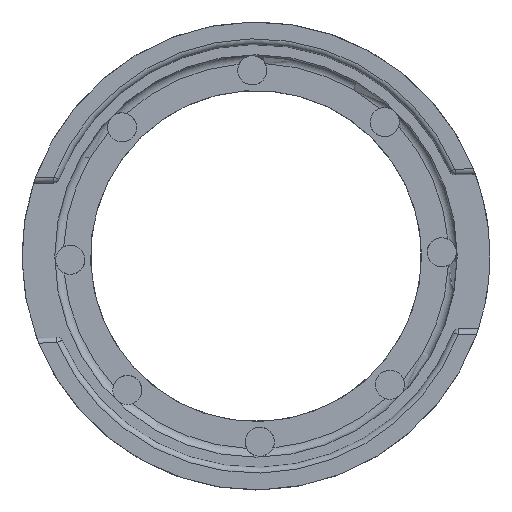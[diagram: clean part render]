
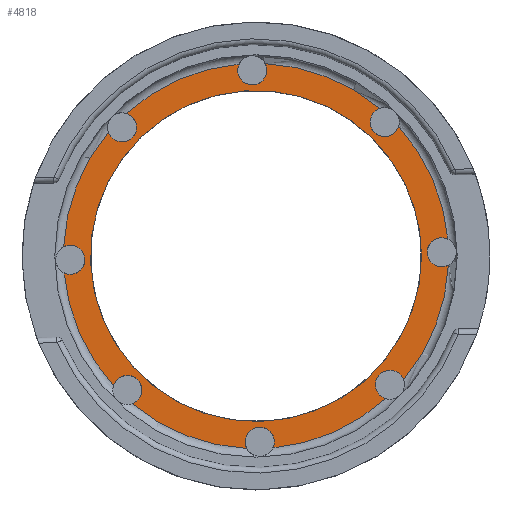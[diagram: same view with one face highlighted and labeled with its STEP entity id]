
A CAD part, top view. The second image highlights one B-rep face of the part: STEP entity #4818.
In plain terms, the highlighted planar face has unit normal (0, 0, 1).
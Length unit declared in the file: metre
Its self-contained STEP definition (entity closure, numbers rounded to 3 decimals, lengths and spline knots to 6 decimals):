
#648=CIRCLE('',#5213,0.03375);
#649=CIRCLE('',#5214,0.00255);
#650=CIRCLE('',#5215,0.03375);
#651=CIRCLE('',#5216,0.00255);
#652=CIRCLE('',#5217,0.03375);
#653=CIRCLE('',#5218,0.00255);
#654=CIRCLE('',#5219,0.03375);
#655=CIRCLE('',#5220,0.00255);
#656=CIRCLE('',#5221,0.03375);
#657=CIRCLE('',#5222,0.00255);
#658=CIRCLE('',#5223,0.03375);
#659=CIRCLE('',#5224,0.00255);
#660=CIRCLE('',#5225,0.03375);
#661=CIRCLE('',#5226,0.00255);
#662=CIRCLE('',#5227,0.03375);
#663=CIRCLE('',#5228,0.00255);
#664=CIRCLE('',#5229,0.029);
#1558=ORIENTED_EDGE('',*,*,#2842,.T.);
#1559=ORIENTED_EDGE('',*,*,#2843,.T.);
#1560=ORIENTED_EDGE('',*,*,#2844,.T.);
#1561=ORIENTED_EDGE('',*,*,#2845,.T.);
#1562=ORIENTED_EDGE('',*,*,#2846,.T.);
#1563=ORIENTED_EDGE('',*,*,#2847,.T.);
#1564=ORIENTED_EDGE('',*,*,#2848,.T.);
#1565=ORIENTED_EDGE('',*,*,#2849,.T.);
#1566=ORIENTED_EDGE('',*,*,#2850,.T.);
#1567=ORIENTED_EDGE('',*,*,#2851,.T.);
#1568=ORIENTED_EDGE('',*,*,#2852,.T.);
#1569=ORIENTED_EDGE('',*,*,#2853,.T.);
#1570=ORIENTED_EDGE('',*,*,#2854,.T.);
#1571=ORIENTED_EDGE('',*,*,#2855,.T.);
#1572=ORIENTED_EDGE('',*,*,#2856,.T.);
#1573=ORIENTED_EDGE('',*,*,#2857,.T.);
#1574=ORIENTED_EDGE('',*,*,#2858,.T.);
#2842=EDGE_CURVE('',#3403,#3404,#648,.F.);
#2843=EDGE_CURVE('',#3404,#3405,#649,.T.);
#2844=EDGE_CURVE('',#3405,#3406,#650,.F.);
#2845=EDGE_CURVE('',#3406,#3407,#651,.T.);
#2846=EDGE_CURVE('',#3407,#3408,#652,.F.);
#2847=EDGE_CURVE('',#3408,#3409,#653,.T.);
#2848=EDGE_CURVE('',#3409,#3410,#654,.F.);
#2849=EDGE_CURVE('',#3410,#3411,#655,.T.);
#2850=EDGE_CURVE('',#3411,#3412,#656,.F.);
#2851=EDGE_CURVE('',#3412,#3413,#657,.T.);
#2852=EDGE_CURVE('',#3413,#3414,#658,.F.);
#2853=EDGE_CURVE('',#3414,#3415,#659,.T.);
#2854=EDGE_CURVE('',#3415,#3416,#660,.F.);
#2855=EDGE_CURVE('',#3416,#3417,#661,.T.);
#2856=EDGE_CURVE('',#3417,#3418,#662,.F.);
#2857=EDGE_CURVE('',#3418,#3403,#663,.T.);
#2858=EDGE_CURVE('',#3419,#3419,#664,.T.);
#3403=VERTEX_POINT('',#12176);
#3404=VERTEX_POINT('',#12177);
#3405=VERTEX_POINT('',#12179);
#3406=VERTEX_POINT('',#12181);
#3407=VERTEX_POINT('',#12183);
#3408=VERTEX_POINT('',#12185);
#3409=VERTEX_POINT('',#12187);
#3410=VERTEX_POINT('',#12189);
#3411=VERTEX_POINT('',#12191);
#3412=VERTEX_POINT('',#12193);
#3413=VERTEX_POINT('',#12195);
#3414=VERTEX_POINT('',#12197);
#3415=VERTEX_POINT('',#12199);
#3416=VERTEX_POINT('',#12201);
#3417=VERTEX_POINT('',#12203);
#3418=VERTEX_POINT('',#12205);
#3419=VERTEX_POINT('',#12208);
#4002=EDGE_LOOP('',(#1558,#1559,#1560,#1561,#1562,#1563,#1564,#1565,#1566,
#1567,#1568,#1569,#1570,#1571,#1572,#1573));
#4003=EDGE_LOOP('',(#1574));
#4339=FACE_BOUND('',#4002,.T.);
#4340=FACE_BOUND('',#4003,.T.);
#4561=PLANE('',#5212);
#4818=ADVANCED_FACE('',(#4339,#4340),#4561,.F.);
#5212=AXIS2_PLACEMENT_3D('',#12174,#5854,#5855);
#5213=AXIS2_PLACEMENT_3D('',#12175,#5856,#5857);
#5214=AXIS2_PLACEMENT_3D('',#12178,#5858,#5859);
#5215=AXIS2_PLACEMENT_3D('',#12180,#5860,#5861);
#5216=AXIS2_PLACEMENT_3D('',#12182,#5862,#5863);
#5217=AXIS2_PLACEMENT_3D('',#12184,#5864,#5865);
#5218=AXIS2_PLACEMENT_3D('',#12186,#5866,#5867);
#5219=AXIS2_PLACEMENT_3D('',#12188,#5868,#5869);
#5220=AXIS2_PLACEMENT_3D('',#12190,#5870,#5871);
#5221=AXIS2_PLACEMENT_3D('',#12192,#5872,#5873);
#5222=AXIS2_PLACEMENT_3D('',#12194,#5874,#5875);
#5223=AXIS2_PLACEMENT_3D('',#12196,#5876,#5877);
#5224=AXIS2_PLACEMENT_3D('',#12198,#5878,#5879);
#5225=AXIS2_PLACEMENT_3D('',#12200,#5880,#5881);
#5226=AXIS2_PLACEMENT_3D('',#12202,#5882,#5883);
#5227=AXIS2_PLACEMENT_3D('',#12204,#5884,#5885);
#5228=AXIS2_PLACEMENT_3D('',#12206,#5886,#5887);
#5229=AXIS2_PLACEMENT_3D('',#12207,#5888,#5889);
#5854=DIRECTION('',(0.,0.,-1.));
#5855=DIRECTION('',(0.819,0.574,0.));
#5856=DIRECTION('',(0.,0.,-1.));
#5857=DIRECTION('',(1.,0.,0.));
#5858=DIRECTION('',(0.,0.,-1.));
#5859=DIRECTION('',(1.,0.,0.));
#5860=DIRECTION('',(0.,0.,-1.));
#5861=DIRECTION('',(1.,0.,0.));
#5862=DIRECTION('',(0.,0.,-1.));
#5863=DIRECTION('',(1.,0.,0.));
#5864=DIRECTION('',(0.,0.,-1.));
#5865=DIRECTION('',(1.,0.,0.));
#5866=DIRECTION('',(0.,0.,-1.));
#5867=DIRECTION('',(1.,0.,0.));
#5868=DIRECTION('',(0.,0.,-1.));
#5869=DIRECTION('',(1.,0.,0.));
#5870=DIRECTION('',(0.,0.,-1.));
#5871=DIRECTION('',(1.,0.,0.));
#5872=DIRECTION('',(0.,0.,-1.));
#5873=DIRECTION('',(1.,0.,0.));
#5874=DIRECTION('',(0.,0.,-1.));
#5875=DIRECTION('',(1.,0.,0.));
#5876=DIRECTION('',(0.,0.,-1.));
#5877=DIRECTION('',(1.,0.,0.));
#5878=DIRECTION('',(0.,0.,-1.));
#5879=DIRECTION('',(1.,0.,0.));
#5880=DIRECTION('',(0.,0.,-1.));
#5881=DIRECTION('',(1.,0.,0.));
#5882=DIRECTION('',(0.,0.,-1.));
#5883=DIRECTION('',(1.,0.,0.));
#5884=DIRECTION('',(0.,0.,-1.));
#5885=DIRECTION('',(1.,0.,0.));
#5886=DIRECTION('',(0.,0.,-1.));
#5887=DIRECTION('',(1.,0.,0.));
#5888=DIRECTION('',(0.,0.,-1.));
#5889=DIRECTION('',(1.,0.,0.));
#12174=CARTESIAN_POINT('',(0.,0.,0.0738));
#12175=CARTESIAN_POINT('',(0.,0.,0.0738));
#12176=CARTESIAN_POINT('',(-0.025871,0.021674,0.0738));
#12177=CARTESIAN_POINT('',(-0.033712,0.001611,0.0738));
#12178=CARTESIAN_POINT('',(-0.032543,-0.000656,0.0738));
#12179=CARTESIAN_POINT('',(-0.033619,-0.002968,0.0738));
#12180=CARTESIAN_POINT('',(0.,0.,0.0738));
#12181=CARTESIAN_POINT('',(-0.024976,-0.022699,0.0738));
#12182=CARTESIAN_POINT('',(-0.022548,-0.023476,0.0738));
#12183=CARTESIAN_POINT('',(-0.021674,-0.025871,0.0738));
#12184=CARTESIAN_POINT('',(0.,0.,0.0738));
#12185=CARTESIAN_POINT('',(-0.001611,-0.033712,0.0738));
#12186=CARTESIAN_POINT('',(0.000656,-0.032543,0.0738));
#12187=CARTESIAN_POINT('',(0.002968,-0.033619,0.0738));
#12188=CARTESIAN_POINT('',(0.,0.,0.0738));
#12189=CARTESIAN_POINT('',(0.022699,-0.024976,0.0738));
#12190=CARTESIAN_POINT('',(0.023476,-0.022548,0.0738));
#12191=CARTESIAN_POINT('',(0.025871,-0.021674,0.0738));
#12192=CARTESIAN_POINT('',(0.,0.,0.0738));
#12193=CARTESIAN_POINT('',(0.033712,-0.001611,0.0738));
#12194=CARTESIAN_POINT('',(0.032543,0.000656,0.0738));
#12195=CARTESIAN_POINT('',(0.033619,0.002968,0.0738));
#12196=CARTESIAN_POINT('',(0.,0.,0.0738));
#12197=CARTESIAN_POINT('',(0.024976,0.022699,0.0738));
#12198=CARTESIAN_POINT('',(0.022548,0.023476,0.0738));
#12199=CARTESIAN_POINT('',(0.021674,0.025871,0.0738));
#12200=CARTESIAN_POINT('',(0.,0.,0.0738));
#12201=CARTESIAN_POINT('',(0.001611,0.033712,0.0738));
#12202=CARTESIAN_POINT('',(-0.000656,0.032543,0.0738));
#12203=CARTESIAN_POINT('',(-0.002968,0.033619,0.0738));
#12204=CARTESIAN_POINT('',(0.,0.,0.0738));
#12205=CARTESIAN_POINT('',(-0.022699,0.024976,0.0738));
#12206=CARTESIAN_POINT('',(-0.023476,0.022548,0.0738));
#12207=CARTESIAN_POINT('',(0.,0.,0.0738));
#12208=CARTESIAN_POINT('',(0.029,0.,0.0738));
